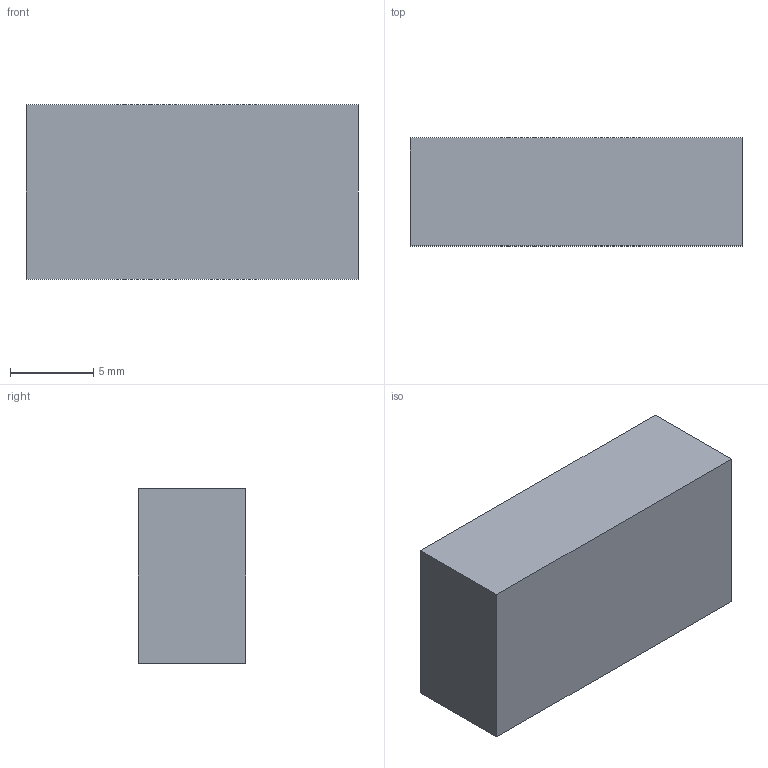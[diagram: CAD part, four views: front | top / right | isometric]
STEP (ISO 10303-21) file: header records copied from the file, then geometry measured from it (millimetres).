
FILE_DESCRIPTION(('Open CASCADE Model'),'2;1');
FILE_NAME('Open CASCADE Shape Model','2026-10-06T03:35:42',('Author'),( 'Open CASCADE'),'Open CASCADE STEP processor 7.8','Open CASCADE 7.8' ,'Unknown');
FILE_SCHEMA(('AUTOMOTIVE_DESIGN { 1 0 10303 214 1 1 1 1 }'));
Length unit declared in the file: millimetre
Products named in the file (1): Open CASCADE STEP translator 7.8 12
Bounding box: 20 x 6.5 x 10.5 mm (x, y, z)
Volume: 1365 mm3; surface area: 816.5 mm2
Topology: 1 solids, 1 shells, 6 faces, 12 edges, 8 vertices
Faces by surface type: plane 6
Entity records: 322 total; most frequent: CARTESIAN_POINT 51, DIRECTION 50, LINE 36, VECTOR 36, ORIENTED_EDGE 24, PCURVE 24, DEFINITIONAL_REPRESENTATION 24, EDGE_CURVE 12
